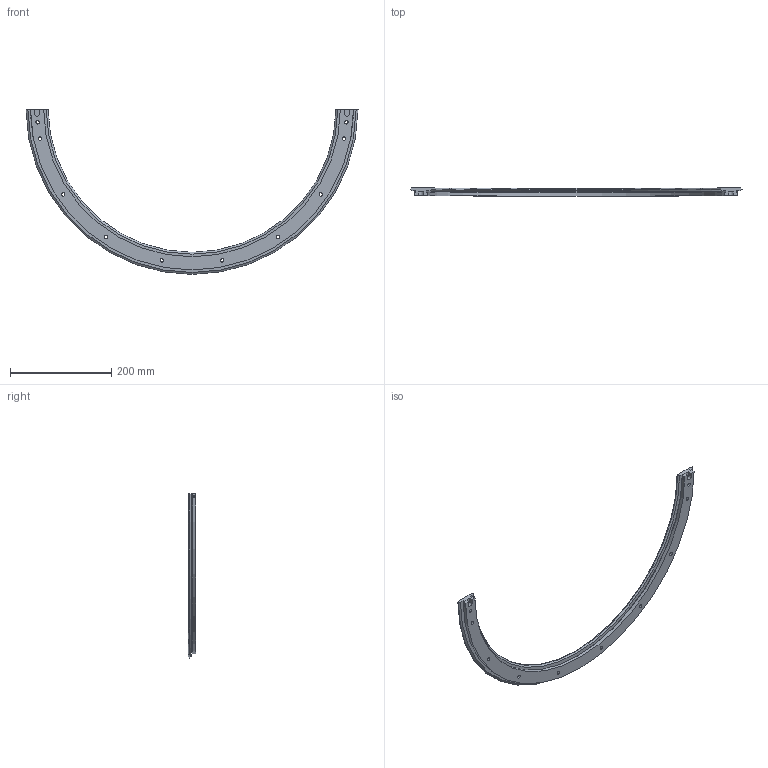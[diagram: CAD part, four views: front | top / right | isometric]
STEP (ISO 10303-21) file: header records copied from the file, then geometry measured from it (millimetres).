
FILE_DESCRIPTION( ( 'STEP AP203' ), '1' );
FILE_NAME( 'p:/temp/worker_31/temp/exporttempdir_5100_890_Ez0oS/format_0/TR44 612 R180.stp', '2021-09-17T07:41:07', ( 'License CC BY-ND 4.0' ), ( 'CADENAS' ), ' ', 'PARTsolutions', ' ' );
FILE_SCHEMA( ( 'CONFIG_CONTROL_DESIGN' ) );
Length unit declared in the file: millimetre
Products named in the file (1): _TR44 612 R180
Bounding box: 655.59 x 15.5 x 325.31 mm (x, y, z)
Volume: 443717.6 mm3; surface area: 120875.4 mm2
Topology: 1 solids, 1 shells, 92 faces, 219 edges, 147 vertices
Faces by surface type: plane 56, cylinder 30, cone 4, torus 2
Full cylindrical faces by diameter (mm): 5 x4, 6.8 x10, 11 x10
Entity records: 2884 total; most frequent: CARTESIAN_POINT 734, DIRECTION 426, ORIENTED_EDGE 384, EDGE_CURVE 192, AXIS2_PLACEMENT_3D 157, EDGE_LOOP 154, VERTEX_POINT 145, FACE_OUTER_BOUND 116
